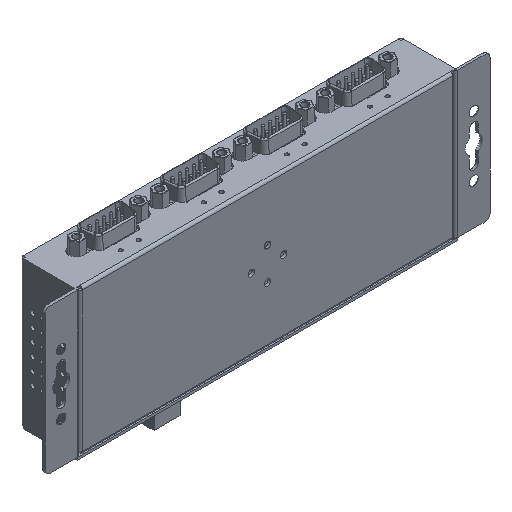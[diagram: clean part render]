
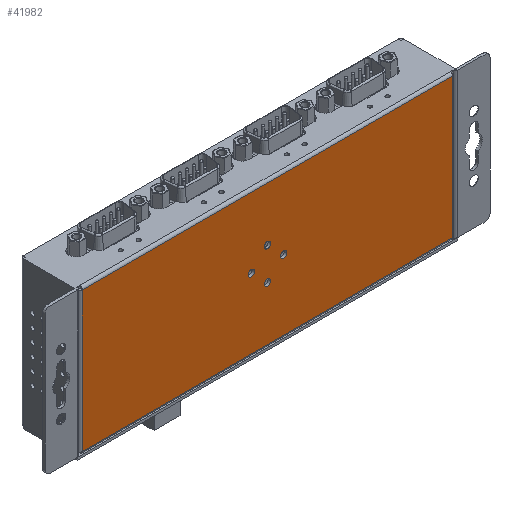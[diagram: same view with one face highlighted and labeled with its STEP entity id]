
A CAD part, isometric view. The second image highlights one B-rep face of the part: STEP entity #41982.
In plain terms, the highlighted planar face has unit normal (0, -1, 0).
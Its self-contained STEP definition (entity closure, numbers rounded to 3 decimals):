
#1982=FACE_BOUND('',#7978,.T.);
#1983=FACE_BOUND('',#7979,.T.);
#1984=FACE_BOUND('',#7980,.T.);
#1985=FACE_BOUND('',#7981,.T.);
#2961=CIRCLE('',#45436,1.265);
#2963=CIRCLE('',#45439,1.265);
#2965=CIRCLE('',#45442,1.265);
#2967=CIRCLE('',#45445,1.265);
#5251=FACE_OUTER_BOUND('',#7977,.T.);
#7977=EDGE_LOOP('',(#38063,#38064,#38065,#38066));
#7978=EDGE_LOOP('',(#38067));
#7979=EDGE_LOOP('',(#38068));
#7980=EDGE_LOOP('',(#38069));
#7981=EDGE_LOOP('',(#38070));
#12238=LINE('',#86245,#16489);
#12242=LINE('',#86261,#16493);
#12243=LINE('',#86267,#16494);
#12244=LINE('',#86268,#16495);
#16489=VECTOR('',#56358,10.);
#16493=VECTOR('',#56382,10.);
#16494=VECTOR('',#56391,10.);
#16495=VECTOR('',#56392,10.);
#20327=VERTEX_POINT('',#85887);
#20329=VERTEX_POINT('',#85893);
#20331=VERTEX_POINT('',#85899);
#20333=VERTEX_POINT('',#85905);
#20412=VERTEX_POINT('',#86231);
#20413=VERTEX_POINT('',#86235);
#20416=VERTEX_POINT('',#86260);
#20417=VERTEX_POINT('',#86266);
#26149=EDGE_CURVE('',#20327,#20327,#2961,.T.);
#26152=EDGE_CURVE('',#20329,#20329,#2963,.T.);
#26155=EDGE_CURVE('',#20331,#20331,#2965,.T.);
#26158=EDGE_CURVE('',#20333,#20333,#2967,.T.);
#26327=EDGE_CURVE('',#20412,#20413,#12238,.T.);
#26335=EDGE_CURVE('',#20416,#20412,#12242,.T.);
#26338=EDGE_CURVE('',#20413,#20417,#12243,.T.);
#26339=EDGE_CURVE('',#20417,#20416,#12244,.T.);
#38063=ORIENTED_EDGE('',*,*,#26327,.T.);
#38064=ORIENTED_EDGE('',*,*,#26338,.T.);
#38065=ORIENTED_EDGE('',*,*,#26339,.T.);
#38066=ORIENTED_EDGE('',*,*,#26335,.T.);
#38067=ORIENTED_EDGE('',*,*,#26149,.T.);
#38068=ORIENTED_EDGE('',*,*,#26152,.T.);
#38069=ORIENTED_EDGE('',*,*,#26155,.T.);
#38070=ORIENTED_EDGE('',*,*,#26158,.T.);
#39742=PLANE('',#45585);
#41982=ADVANCED_FACE('',(#5251,#1982,#1983,#1984,#1985),#39742,.T.);
#45436=AXIS2_PLACEMENT_3D('',#85888,#55952,#55953);
#45439=AXIS2_PLACEMENT_3D('',#85894,#55959,#55960);
#45442=AXIS2_PLACEMENT_3D('',#85900,#55966,#55967);
#45445=AXIS2_PLACEMENT_3D('',#85906,#55973,#55974);
#45585=AXIS2_PLACEMENT_3D('',#86265,#56389,#56390);
#55952=DIRECTION('center_axis',(0.,1.,0.));
#55953=DIRECTION('ref_axis',(0.,0.,-1.));
#55959=DIRECTION('center_axis',(0.,1.,0.));
#55960=DIRECTION('ref_axis',(0.,0.,-1.));
#55966=DIRECTION('center_axis',(0.,1.,0.));
#55967=DIRECTION('ref_axis',(0.,0.,-1.));
#55973=DIRECTION('center_axis',(0.,1.,0.));
#55974=DIRECTION('ref_axis',(0.,0.,-1.));
#56358=DIRECTION('',(1.,0.,0.));
#56382=DIRECTION('',(0.,0.,-1.));
#56389=DIRECTION('center_axis',(0.,-1.,0.));
#56390=DIRECTION('ref_axis',(1.,0.,0.));
#56391=DIRECTION('',(0.,0.,1.));
#56392=DIRECTION('',(-1.,0.,0.));
#85887=CARTESIAN_POINT('',(70.59,-5.53,-32.566));
#85888=CARTESIAN_POINT('Origin',(70.59,-5.53,-33.83));
#85893=CARTESIAN_POINT('',(70.59,-5.53,-19.566));
#85894=CARTESIAN_POINT('Origin',(70.59,-5.53,-20.83));
#85899=CARTESIAN_POINT('',(64.09,-5.53,-26.066));
#85900=CARTESIAN_POINT('Origin',(64.09,-5.53,-27.33));
#85905=CARTESIAN_POINT('',(77.09,-5.53,-26.066));
#85906=CARTESIAN_POINT('Origin',(77.09,-5.53,-27.33));
#86231=CARTESIAN_POINT('',(-3.825,-5.53,-55.445));
#86235=CARTESIAN_POINT('',(145.005,-5.53,-55.445));
#86245=CARTESIAN_POINT('',(33.383,-5.53,-55.445));
#86260=CARTESIAN_POINT('',(-3.825,-5.53,0.785));
#86261=CARTESIAN_POINT('',(-3.825,-5.53,-13.273));
#86265=CARTESIAN_POINT('Origin',(70.59,-5.53,-27.33));
#86266=CARTESIAN_POINT('',(145.005,-5.53,0.785));
#86267=CARTESIAN_POINT('',(145.005,-5.53,-41.893));
#86268=CARTESIAN_POINT('',(32.878,-5.53,0.785));
